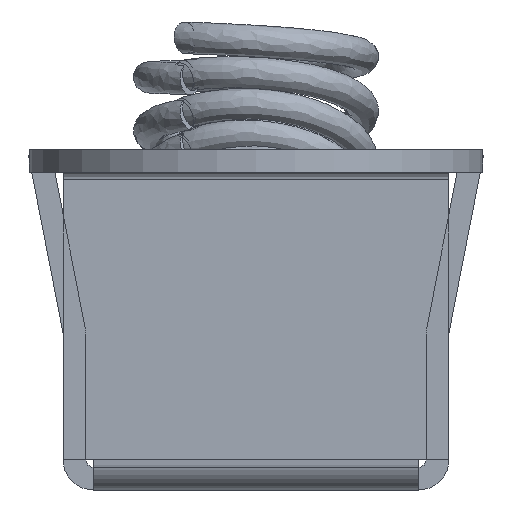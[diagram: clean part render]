
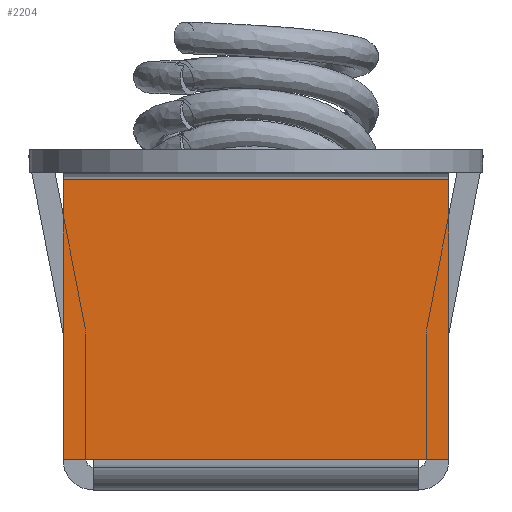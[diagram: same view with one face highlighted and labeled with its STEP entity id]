
A CAD part, left-side view. The second image highlights one B-rep face of the part: STEP entity #2204.
In plain terms, the highlighted planar face has unit normal (-1, 0, 0).
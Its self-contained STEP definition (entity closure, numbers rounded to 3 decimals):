
#866=CARTESIAN_POINT('',(-173.0,8.5,1.333));
#867=VERTEX_POINT('',#866);
#874=CARTESIAN_POINT('',(-173.,8.5,13.667));
#875=VERTEX_POINT('',#874);
#876=CARTESIAN_POINT('',(-173.0,8.5,1.333));
#877=DIRECTION('',(0.0,0.0,1.0));
#878=VECTOR('',#877,12.333);
#879=LINE('',#876,#878);
#880=EDGE_CURVE('',#867,#875,#879,.T.);
#1703=CARTESIAN_POINT('',(-173.0,7.167,1.333));
#1704=VERTEX_POINT('',#1703);
#1711=CARTESIAN_POINT('',(-173.0,8.5,1.333));
#1712=DIRECTION('',(0.0,-1.0,0.0));
#1713=VECTOR('',#1712,1.333);
#1714=LINE('',#1711,#1713);
#1715=EDGE_CURVE('',#867,#1704,#1714,.T.);
#1786=CARTESIAN_POINT('',(-173.,-7.167,1.333));
#1787=VERTEX_POINT('',#1786);
#1795=CARTESIAN_POINT('',(-173.0,7.167,1.333));
#1796=DIRECTION('',(0.0,-1.0,0.0));
#1797=VECTOR('',#1796,14.333);
#1798=LINE('',#1795,#1797);
#1799=EDGE_CURVE('',#1704,#1787,#1798,.T.);
#1809=CARTESIAN_POINT('',(-173.0,-8.5,1.333));
#1810=VERTEX_POINT('',#1809);
#1819=CARTESIAN_POINT('',(-173.0,-7.167,1.333));
#1820=DIRECTION('',(0.0,-1.0,0.0));
#1821=VECTOR('',#1820,1.333);
#1822=LINE('',#1819,#1821);
#1823=EDGE_CURVE('',#1787,#1810,#1822,.T.);
#1935=CARTESIAN_POINT('',(-173.,-8.5,13.667));
#1936=VERTEX_POINT('',#1935);
#1944=CARTESIAN_POINT('',(-173.,-8.5,13.667));
#1945=DIRECTION('',(0.0,0.0,-1.0));
#1946=VECTOR('',#1945,12.333);
#1947=LINE('',#1944,#1946);
#1948=EDGE_CURVE('',#1936,#1810,#1947,.T.);
#2181=CARTESIAN_POINT('',(-173.,-8.5,13.667));
#2182=DIRECTION('',(0.0,1.0,0.0));
#2183=VECTOR('',#2182,17.);
#2184=LINE('',#2181,#2183);
#2185=EDGE_CURVE('',#1936,#875,#2184,.T.);
#2191=CARTESIAN_POINT('',(-173.,0.0,7.559));
#2192=DIRECTION('',(1.0,0.0,0.0));
#2193=DIRECTION('',(0.0,0.0,-1.0));
#2194=AXIS2_PLACEMENT_3D('',#2191,#2192,#2193);
#2195=PLANE('',#2194);
#2196=ORIENTED_EDGE('',*,*,#2185,.T.);
#2197=ORIENTED_EDGE('',*,*,#880,.F.);
#2198=ORIENTED_EDGE('',*,*,#1715,.T.);
#2199=ORIENTED_EDGE('',*,*,#1799,.T.);
#2200=ORIENTED_EDGE('',*,*,#1823,.T.);
#2201=ORIENTED_EDGE('',*,*,#1948,.F.);
#2202=EDGE_LOOP('',(#2196,#2197,#2198,#2199,#2200,#2201));
#2203=FACE_OUTER_BOUND('',#2202,.T.);
#2204=ADVANCED_FACE('',(#2203),#2195,.F.);
